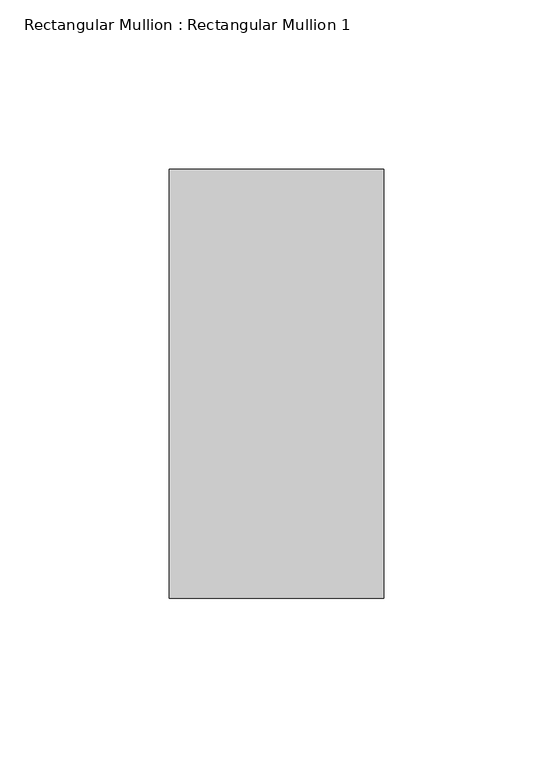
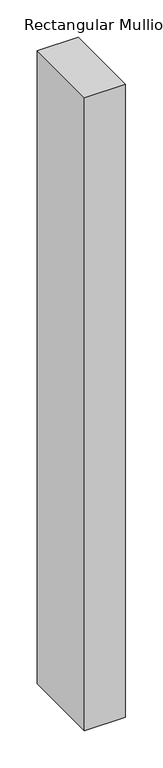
"""IFC4 building model written with IfcOpenShell, lengths in millimetres: member geometry, Rectangular Mullion : Rectangular Mullion 1."""

from ifc_helpers import new_model, si_unit, frame, origin, place, context, project, spatial, polyline, outline, extrude, source, transform, mapped, element, save


def rectangular_mullion_rectangular_mullion_1_8148fb0b(model_context):
    return source(origin(), model_context, "Body", "SweptSolid", [
        extrude(outline(polyline([(31.75, 63.5), (31.75, -63.5), (-31.75, -63.5), (-31.75, 63.5), (31.75, 63.5)])), frame((0.0, 0.0, -1038.6785714), z_axis=(0.0, 0.0, 1.0), x_axis=(1.0, 0.0, 0.0)), (0.0, 0.0, 1.0), 1038.6785714),
    ])


if __name__ == "__main__":
    model = new_model("IFC4")
    model_context = context("Model", 3, world=origin())
    ifc_project = project(units=[si_unit("LENGTHUNIT", "METRE", prefix="MILLI")], contexts=[model_context])
    site = spatial("IfcSite", under=ifc_project)
    building = spatial("IfcBuilding", under=site)
    placement = place(None, origin())
    rectangular_mullion_rectangular_mullion_1_shape = rectangular_mullion_rectangular_mullion_1_8148fb0b(model_context)
    element("IfcMember", 1, ObjectType="Rectangular Mullion : Rectangular Mullion 1", at=placement, inside=building, context=model_context, shape_type="MappedRepresentation", body=[
        mapped(rectangular_mullion_rectangular_mullion_1_shape, transform((0.0, 0.0, 0.0), x_axis=(1.0, 0.0, 0.0), y_axis=(0.0, 1.0, 0.0), z_axis=(0.0, 0.0, 1.0))),
    ])
    save(model, "model.ifc")
